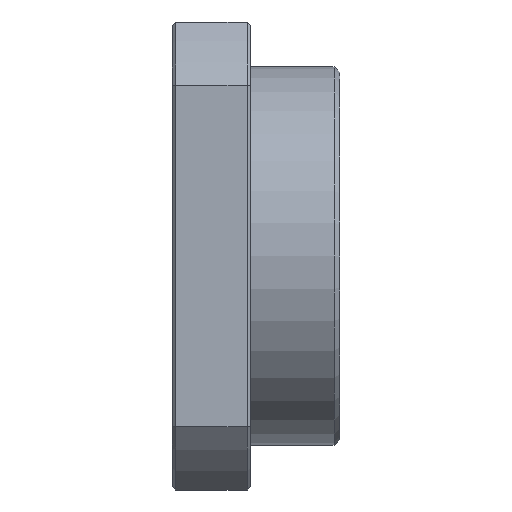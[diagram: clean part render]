
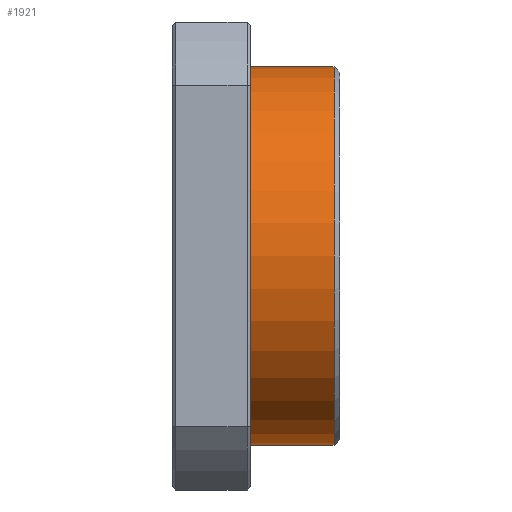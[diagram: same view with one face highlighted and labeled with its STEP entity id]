
A CAD part, front view. The second image highlights one B-rep face of the part: STEP entity #1921.
In plain terms, the highlighted cylindrical face has radius 17 mm (diameter 34 mm), a partial arc.
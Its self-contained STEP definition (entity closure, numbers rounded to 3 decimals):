
#19 = DIRECTION ( 'NONE',  ( -1., 0., 0. ) ) ;
#33 = CARTESIAN_POINT ( 'NONE',  ( -81.647, 0., 0. ) ) ;
#107 = ORIENTED_EDGE ( 'NONE', *, *, #3380, .F. ) ;
#128 = DIRECTION ( 'NONE',  ( 0., 0., 1. ) ) ;
#395 = CYLINDRICAL_SURFACE ( 'NONE', #2692, 17. ) ;
#446 = AXIS2_PLACEMENT_3D ( 'NONE', #3420, #3416, #3408 ) ;
#453 = VERTEX_POINT ( 'NONE', #2328 ) ;
#530 = VERTEX_POINT ( 'NONE', #1795 ) ;
#738 = LINE ( 'NONE', #924, #1549 ) ;
#889 = EDGE_LOOP ( 'NONE', ( #1655, #2434, #3191, #107 ) ) ;
#918 = DIRECTION ( 'NONE',  ( -1., 0., 0. ) ) ;
#924 = CARTESIAN_POINT ( 'NONE',  ( -81.647, 0., -17. ) ) ;
#1059 = CARTESIAN_POINT ( 'NONE',  ( 7., 0., 0. ) ) ;
#1146 = DIRECTION ( 'NONE',  ( -1., 0., 0. ) ) ;
#1212 = DIRECTION ( 'NONE',  ( 0., 0., 1. ) ) ;
#1230 = VECTOR ( 'NONE', #2874, 1000. ) ;
#1549 = VECTOR ( 'NONE', #918, 1000. ) ;
#1654 = CARTESIAN_POINT ( 'NONE',  ( 14.5, 0., 17. ) ) ;
#1655 = ORIENTED_EDGE ( 'NONE', *, *, #2764, .F. ) ;
#1795 = CARTESIAN_POINT ( 'NONE',  ( 7., 0., 17. ) ) ;
#1873 = CARTESIAN_POINT ( 'NONE',  ( 7., 0., -17. ) ) ;
#1921 = ADVANCED_FACE ( 'NONE', ( #3538 ), #395, .T. ) ;
#2025 = AXIS2_PLACEMENT_3D ( 'NONE', #1059, #1146, #1212 ) ;
#2136 = EDGE_CURVE ( 'NONE', #2510, #530, #3458, .T. ) ;
#2328 = CARTESIAN_POINT ( 'NONE',  ( 14.5, 0., -17. ) ) ;
#2434 = ORIENTED_EDGE ( 'NONE', *, *, #3711, .T. ) ;
#2444 = VERTEX_POINT ( 'NONE', #1873 ) ;
#2510 = VERTEX_POINT ( 'NONE', #1654 ) ;
#2692 = AXIS2_PLACEMENT_3D ( 'NONE', #33, #19, #128 ) ;
#2764 = EDGE_CURVE ( 'NONE', #453, #2444, #738, .T. ) ;
#2874 = DIRECTION ( 'NONE',  ( -1., 0., 0. ) ) ;
#3191 = ORIENTED_EDGE ( 'NONE', *, *, #2136, .T. ) ;
#3201 = CARTESIAN_POINT ( 'NONE',  ( -81.647, 0., 17. ) ) ;
#3380 = EDGE_CURVE ( 'NONE', #2444, #530, #3613, .T. ) ;
#3401 = CIRCLE ( 'NONE', #446, 17. ) ;
#3408 = DIRECTION ( 'NONE',  ( 0., 0., 1. ) ) ;
#3416 = DIRECTION ( 'NONE',  ( -1., 0., 0. ) ) ;
#3420 = CARTESIAN_POINT ( 'NONE',  ( 14.5, 0., 0. ) ) ;
#3458 = LINE ( 'NONE', #3201, #1230 ) ;
#3538 = FACE_OUTER_BOUND ( 'NONE', #889, .T. ) ;
#3613 = CIRCLE ( 'NONE', #2025, 17. ) ;
#3711 = EDGE_CURVE ( 'NONE', #453, #2510, #3401, .T. ) ;
